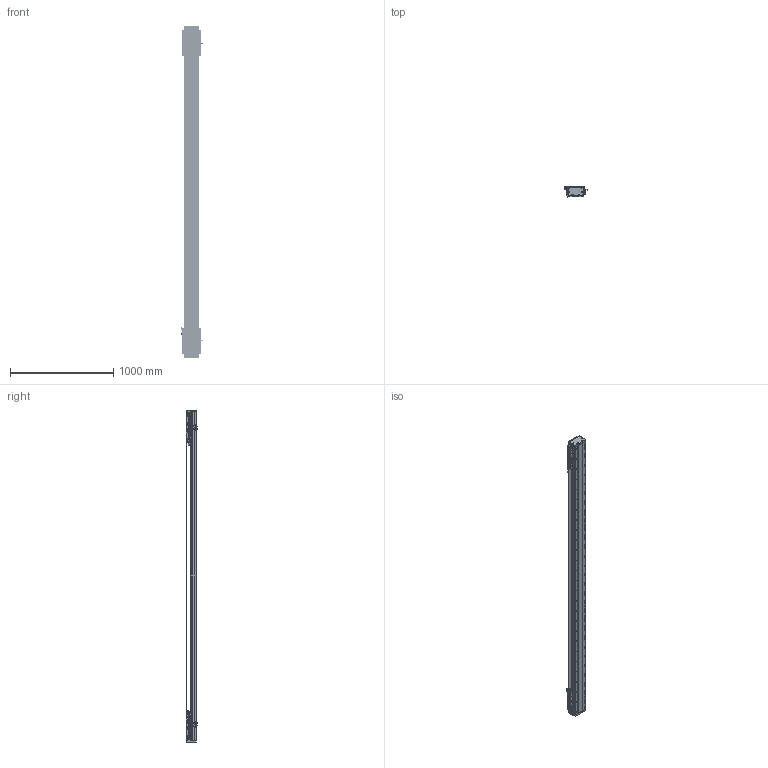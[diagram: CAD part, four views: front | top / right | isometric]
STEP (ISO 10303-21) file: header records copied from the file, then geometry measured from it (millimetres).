
FILE_DESCRIPTION (( 'STEP AP203' ), '1' );
FILE_NAME ('DA-C145-2-C3-T2600-C010-0.2 眻盄萇儂.STEP', '2025-08-13T10:28:38', ( '' ), ( '' ), 'SwSTEP 2.0', 'SolidWorks 2019', '' );
FILE_SCHEMA (( 'CONFIG_CONTROL_DESIGN' ));
Length unit declared in the file: millimetre
Products named in the file (38): DKW-GYP-ZJ-00 笢潔嫖萇覜茼え; DKW-KGZ-ZJ-00 中间光电开关支架; 葩璃 CKMA01-W060-TRL^DA-C145-2-C3-T-C010-0.2; 葩璃 PM-Y65^DA-C145-2-C3-T-C010-0.2; 葩璃 DA145-C3-DP-B-00 菜えB^CU145-W 幗紩賑怢; 葩璃 DA95-GT-T-00^IU-CU145-L 菁釱絳寢; 葩璃 CKM03-W060-C1C2-TP-0.2^DA-C145-2-C3-T-C010-0.2; 葩璃 PM-T45^DA-C145-2-C3-T-C010-0.2; 葩璃 DA95-HXJ-00 遣喳砎蝶^DA-C145-2-C3-T-C010-0.2; 复件 DA95-HK-GT-00 滑块钢轨^CU145-W-00 一体化滑动台板; 葩璃 DMA-010-0.2 黍杅芛^DA-C145-2-C3-T-C010-0.2; 复件 DA145-C3-DK-00 挡块^CU145-W 滚珠滑台; 复件 DA145-GYP-00 光电感应片^DA-C145-2-C3-T-C010-0.2; CU145-W 幗紩賑怢-1; 葩璃 CU145 詩湍郪璃^DA-C145-2-C3-T-C010-0.2; 复件 DA145-DG 钢带端盖^复件 CU145 钢带组件_DA-C145-2-C3-T-C010-0.2; 66245-CU145-HT-W-00 賑雄怢啣(3D芞祧)(00); CU145-W 幗紩賑怢; 复件 DA95-DB-00  挡板^CU145-W 滚珠滑台; 复件 DA146 钢带垫块^复件 CU145 钢带组件_DA-C145-2-C3-T-C010-0.2; IU-CU145-L 菁釱絳寢; DKW168-HXJ-ZJ-00 笢潔滅袉砎蝶; 复件 DA145-C3-YB-B-00 压板B^CU145-W 滚珠滑台; 葩璃 DA145-C3-DP-A-00 菜えA^CU145-W 幗紩賑怢; CU145-W-00 珨极趙賑雄怢啣; 葩璃 XD-U-02L 棠掑喜^DA-C145-2-C3-T-C010-0.2; IU-CU145-L-00 菁釱(L3180); 复件 DA95-MFP-01 密封片^CU145-W 滚珠滑台; CU145-W-00 珨极趙賑雄怢啣-1; 复件 半圆头内六角螺钉 M3×6^CU145-W 滚珠滑台; 复件 内六角平端紧定螺钉 GB.T77-2000 M5×10^CU145-W 滚珠滑台; 葩璃 鞠褒情蹟譫 M3^DA-C145-2-C3-T-C010-0.2; 复件 DA146 钢带拉块^复件 CU145 钢带组件_DA-C145-2-C3-T-C010-0.2; DA-C145-2-C3-T2600-C010-0.2 眻盄萇儂; TAY01-M8; 复件 纯铜油杯 6x6mm^CU145-W 滚珠滑台; 复件 DA145 钢带^复件 CU145 钢带组件_DA-C145-2-C3-T-C010-0.2; 复件 DA145-C3-YB-A-00 压板A^CU145-W 滚珠滑台
Assembly tree (180 placements, depth 4):
  DA-C145-2-C3-T2600-C010-0.2 眻盄萇儂
    IU-CU145-L 菁釱絳寢
      IU-CU145-L-00 菁釱(L3180)
      葩璃 DA95-GT-T-00^IU-CU145-L 菁釱絳寢  x4
    葩璃 CU145 詩湍郪璃^DA-C145-2-C3-T-C010-0.2
      复件 DA145-DG 钢带端盖^复件 CU145 钢带组件_DA-C145-2-C3-T-C010-0.2  x2
      复件 DA146 钢带拉块^复件 CU145 钢带组件_DA-C145-2-C3-T-C010-0.2  x2
      复件 DA146 钢带垫块^复件 CU145 钢带组件_DA-C145-2-C3-T-C010-0.2  x2
      复件 DA145 钢带^复件 CU145 钢带组件_DA-C145-2-C3-T-C010-0.2
    CU145-W 幗紩賑怢
      CU145-W-00 珨极趙賑雄怢啣
        66245-CU145-HT-W-00 賑雄怢啣(3D芞祧)(00)
        复件 DA95-HK-GT-00 滑块钢轨^CU145-W-00 一体化滑动台板  x8
      复件 DA95-MFP-01 密封片^CU145-W 滚珠滑台  x8
      复件 DA95-DB-00  挡板^CU145-W 滚珠滑台  x8
      复件 内六角平端紧定螺钉 GB.T77-2000 M5×10^CU145-W 滚珠滑台  x4
      复件 纯铜油杯 6x6mm^CU145-W 滚珠滑台  x4
      复件 半圆头内六角螺钉 M3×6^CU145-W 滚珠滑台  x16
      复件 DA145-C3-DK-00 挡块^CU145-W 滚珠滑台  x4
      葩璃 DA145-C3-DP-B-00 菜えB^CU145-W 幗紩賑怢  x2
      复件 DA145-C3-YB-B-00 压板B^CU145-W 滚珠滑台  x2
      葩璃 DA145-C3-DP-A-00 菜えA^CU145-W 幗紩賑怢  x3
      复件 DA145-C3-YB-A-00 压板A^CU145-W 滚珠滑台  x3
      TAY01-M8  x4
    CU145-W 幗紩賑怢-1
      CU145-W-00 珨极趙賑雄怢啣-1
        66245-CU145-HT-W-00 賑雄怢啣(3D芞祧)(00)
        复件 DA95-HK-GT-00 滑块钢轨^CU145-W-00 一体化滑动台板  x8
      复件 DA95-MFP-01 密封片^CU145-W 滚珠滑台  x8
      复件 DA95-DB-00  挡板^CU145-W 滚珠滑台  x8
      复件 内六角平端紧定螺钉 GB.T77-2000 M5×10^CU145-W 滚珠滑台  x4
      复件 纯铜油杯 6x6mm^CU145-W 滚珠滑台  x4
      复件 半圆头内六角螺钉 M3×6^CU145-W 滚珠滑台  x16
      复件 DA145-C3-DK-00 挡块^CU145-W 滚珠滑台  x4
      葩璃 DA145-C3-DP-B-00 菜えB^CU145-W 幗紩賑怢  x2
      复件 DA145-C3-YB-B-00 压板B^CU145-W 滚珠滑台  x2
      葩璃 DA145-C3-DP-A-00 菜えA^CU145-W 幗紩賑怢  x3
      复件 DA145-C3-YB-A-00 压板A^CU145-W 滚珠滑台  x3
      TAY01-M8  x4
    葩璃 CKMA01-W060-TRL^DA-C145-2-C3-T-C010-0.2
    葩璃 PM-T45^DA-C145-2-C3-T-C010-0.2  x4
    葩璃 XD-U-02L 棠掑喜^DA-C145-2-C3-T-C010-0.2
    葩璃 DA95-HXJ-00 遣喳砎蝶^DA-C145-2-C3-T-C010-0.2  x4
    葩璃 CKM03-W060-C1C2-TP-0.2^DA-C145-2-C3-T-C010-0.2  x2
    葩璃 DMA-010-0.2 黍杅芛^DA-C145-2-C3-T-C010-0.2  x2
    复件 DA145-GYP-00 光电感应片^DA-C145-2-C3-T-C010-0.2  x2
    DKW-GYP-ZJ-00 笢潔嫖萇覜茼え
    DKW-KGZ-ZJ-00 中间光电开关支架
    葩璃 PM-Y65^DA-C145-2-C3-T-C010-0.2
    葩璃 鞠褒情蹟譫 M3^DA-C145-2-C3-T-C010-0.2  x8
    DKW168-HXJ-ZJ-00 笢潔滅袉砎蝶
Bounding box: 213.7 x 108.45 x 3216 mm (x, y, z)
Volume: 16556219.7 mm3; surface area: 5346536.1 mm2
Topology: 175 solids, 239 shells, 7808 faces, 21495 edges, 13349 vertices
Faces by surface type: cylinder 3507, plane 2961, cone 1184, torus 140, sphere 8, bspline 8
Entity records: 155102 total; most frequent: CARTESIAN_POINT 46508, ORIENTED_EDGE 21676, DIRECTION 20319, EDGE_CURVE 10838, AXIS2_PLACEMENT_3D 7499, VERTEX_POINT 7048, LINE 5321, VECTOR 5321
